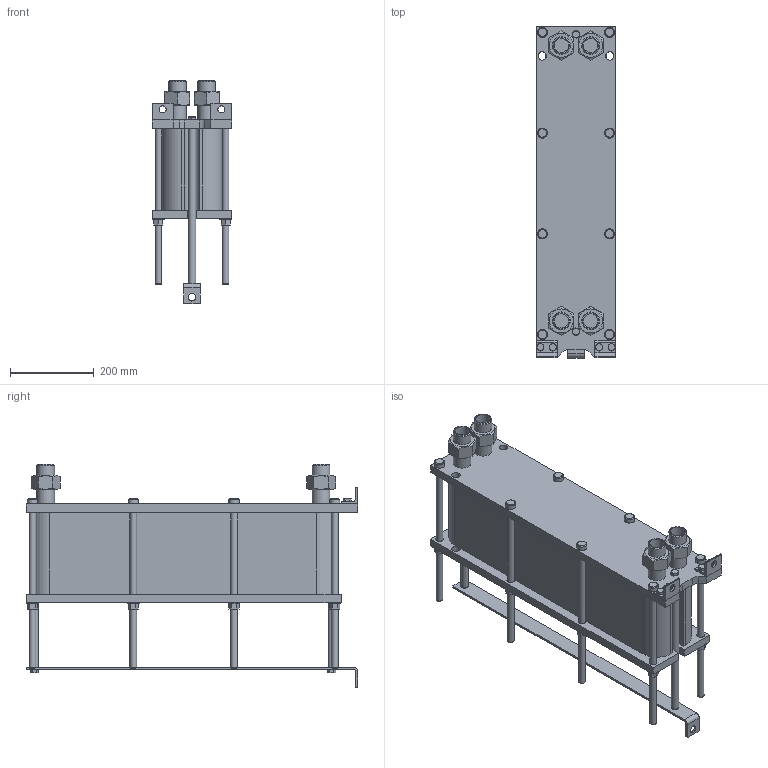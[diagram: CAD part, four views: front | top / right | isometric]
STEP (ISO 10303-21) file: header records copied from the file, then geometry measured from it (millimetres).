
FILE_DESCRIPTION(/* description */ (''),/* implementation_level */ '2;1');
FILE_NAME(/* name */ 'C:\Users\zhuro\Desktop\ENCO\TO\ЭН-008\ЭН-0,5-008-63-1.stp',/* time_stamp */ '2022-06-06T10:50:45+03:00',/* author */ ('zhuro'),/* organization */ (''),/* preprocessor_version */ 'ST-DEVELOPER v18.1',/* originating_system */ 'Autodesk Inventor 2022',/* authorisation */ '');
FILE_SCHEMA (('AUTOMOTIVE_DESIGN { 1 0 10303 214 3 1 1 }'));
Length unit declared in the file: millimetre
Products named in the file (1): ЭН-0,5-008-63-1
Bounding box: 190 x 790 x 531.4 mm (x, y, z)
Volume: 26723134.2 mm3; surface area: 1708548.1 mm2
Topology: 40 solids, 40 shells, 428 faces, 924 edges, 606 vertices
Faces by surface type: plane 273, cylinder 109, cone 40, torus 6
Full cylindrical faces by diameter (mm): 12 x6, 14 x2, 16 x20, 17 x8, 18 x19, 20 x5, 24 x8, 28 x8, 34.3 x8, 42.3 x8
Entity records: 15843 total; most frequent: CARTESIAN_POINT 5991, DIRECTION 1984, ORIENTED_EDGE 1848, EDGE_CURVE 924, AXIS2_PLACEMENT_3D 715, VERTEX_POINT 606, LINE 554, VECTOR 554
